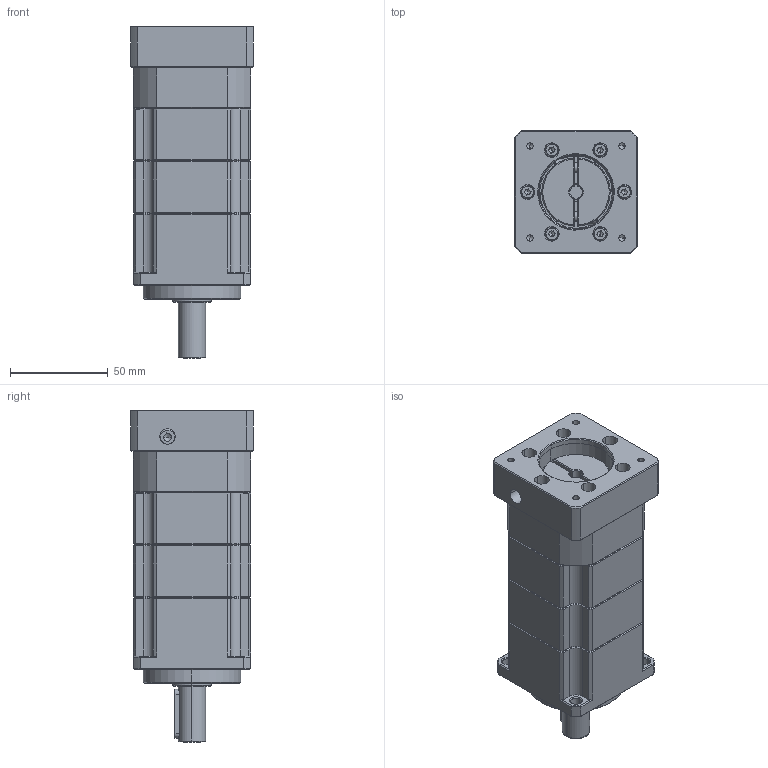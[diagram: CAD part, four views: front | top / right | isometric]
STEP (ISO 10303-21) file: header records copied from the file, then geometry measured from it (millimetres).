
FILE_DESCRIPTION (( 'STEP AP214' ), '1' );
FILE_NAME ('ZPB060-D14-L3-P1-6.35-38.1-47.14X47.14-M4.step', '2024-04-23T15:40:58', ( 'Windows 蚚誧' ), ( 'Organization' ), 'SwSTEP 2.0', 'SolidWorks 2016', '' );
FILE_SCHEMA (( 'AUTOMOTIVE_DESIGN' ));
Length unit declared in the file: millimetre
Products named in the file (1): ZPB060-D14-L3-P1-6.35-38.1-47.14X47.14-M4
Bounding box: 62.5 x 62.5 x 170 mm (x, y, z)
Volume: 416776.8 mm3; surface area: 80328.2 mm2
Topology: 13 solids, 21 shells, 2027 faces, 5323 edges, 3401 vertices
Faces by surface type: plane 1118, bspline 373, cylinder 300, cone 220, torus 16
Entity records: 102528 total; most frequent: CARTESIAN_POINT 32773, ORIENTED_EDGE 10538, DIRECTION 8452, EDGE_CURVE 5269, LINE 3464, VECTOR 3464, VERTEX_POINT 3401, AXIS2_PLACEMENT_3D 2494
